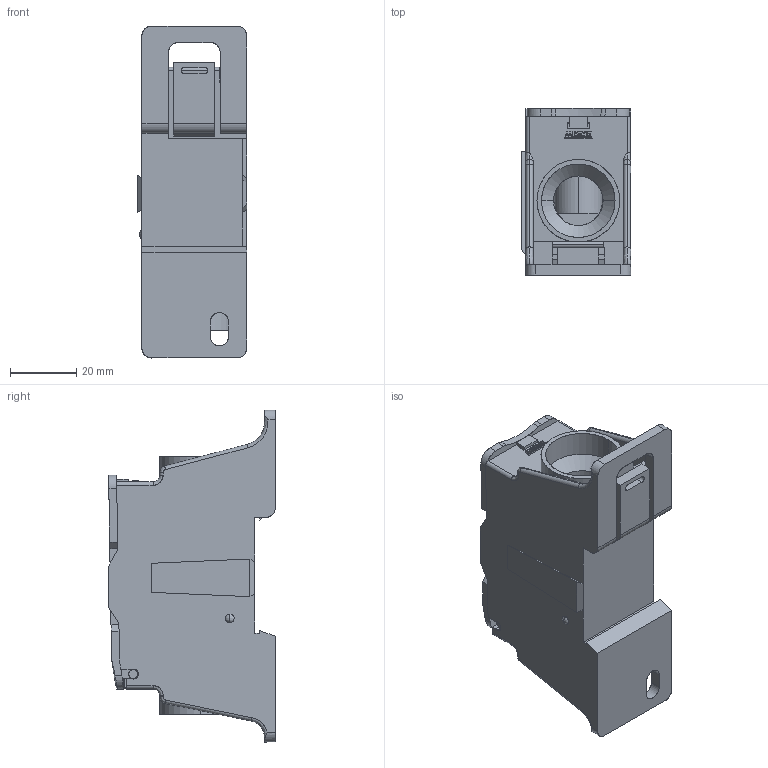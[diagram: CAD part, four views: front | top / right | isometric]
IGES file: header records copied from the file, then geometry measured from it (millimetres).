
Start section: SolidWorks IGES file using analytic representation for surfaces
Global section: file name: D:\X - Arquivos\PROEX\Empresas\P11 - METALTEX\01 - Produtos\IGES\5ª remessa\2ª etapa\BDA250-1.IGS; native system: SolidWorks 2012; preprocessor: SolidWorks 2012; author: Usuario; date: 180810.165906; units: millimetre
Bounding box: 33.1 x 50.43 x 100.4 mm (x, y, z)
Surface area: 30019.1 mm2 (no closed solid volume)
Topology: 0 solids, 0 shells, 414 faces, 4149 edges, 4149 vertices
Faces by surface type: bspline 305, revolution 109
